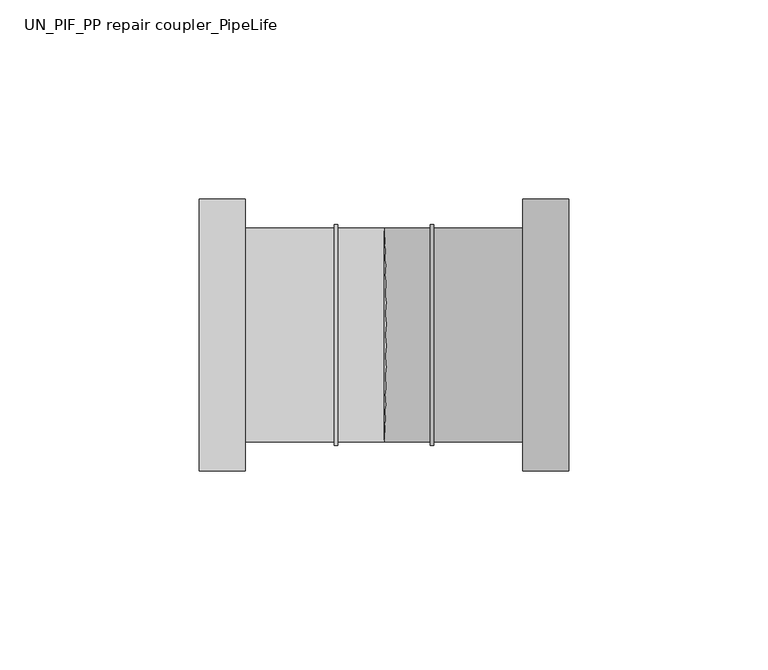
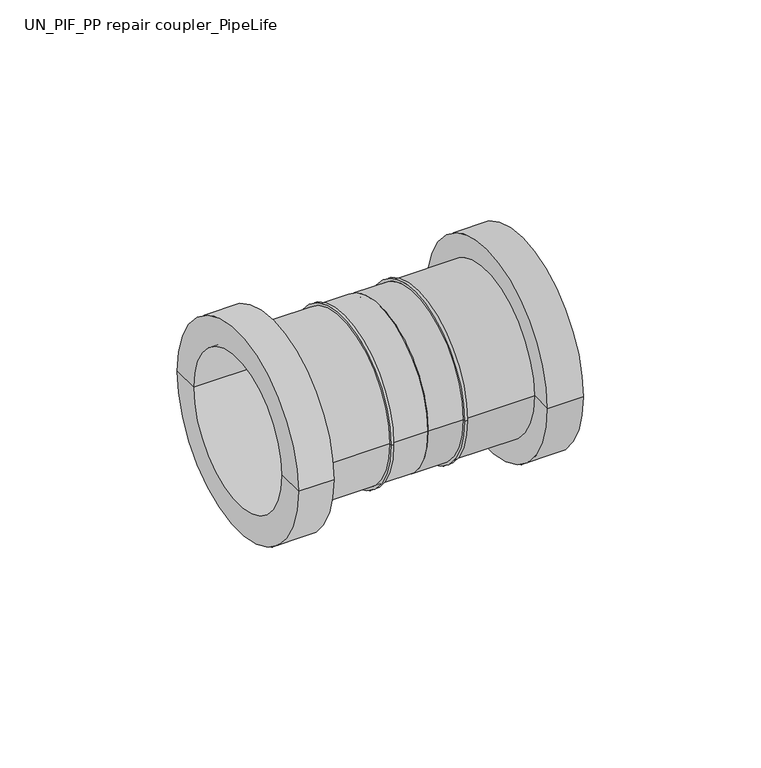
"""IFC4 building model written with IfcOpenShell, lengths in millimetres: pipe fitting geometry, UN_PIF_PP repair coupler_PipeLife : White, var. DN/OD (max. ø50)."""

from ifc_helpers import new_model, si_unit, frame, origin, place, context, project, spatial, polyline, circle_curve, source, transform, mapped, element, save
from ifc_brep_helpers import plane_surface, cylinder_surface, revolved_surface, advanced_brep


def un_pif_pp_repair_coupler_pipelife_4e795297(model_context):
    return source(origin(), model_context, "Body", "AdvancedBrep", [
        advanced_brep(
        [(1.85, 25.0, 0.0), (1.85, -25.0, 0.0), (0.0, -26.85, 0.0), (0.0, 26.85, 0.0), (-46.4, 34.15, 0.0), (-46.4, -34.15, 0.0), (-46.4, -25.0, 0.0), (-46.4, 25.0, 0.0), (-34.8, 34.15, 0.0), (-34.8, -34.15, 0.0), (-34.8, 26.85, 0.0), (-34.8, -26.85, 0.0), (-12.45, 26.85, 0.0), (-12.45, -26.85, 0.0), (-12.45, 27.7, 0.0), (-12.45, -27.7, 0.0), (-11.6, 27.7, 0.0), (-11.6, -27.7, 0.0), (-11.6, 26.85, 0.0), (-11.6, -26.85, 0.0)],
        [
            (0, 1, circle_curve(frame((1.85, 0.0, 0.0), z_axis=(-1.0, 0.0, 0.0), x_axis=(0.0, -1.0, 0.0)), 25.0)),
            (1, 2),
            (2, 3, circle_curve(frame((0.0, 0.0, 0.0), z_axis=(1.0, 0.0, 0.0), x_axis=(0.0, -1.0, 0.0)), 26.85)),
            (3, 0),
            (1, 0, circle_curve(frame((1.85, 0.0, 0.0), z_axis=(-1.0, 0.0, 0.0), x_axis=(0.0, -1.0, 0.0)), 25.0)),
            (3, 2, circle_curve(frame((0.0, 0.0, 0.0), z_axis=(1.0, 0.0, 0.0), x_axis=(0.0, -1.0, 0.0)), 26.85)),
            (4, 5, circle_curve(frame((-46.4, 0.0, 0.0), z_axis=(-1.0, 0.0, 0.0), x_axis=(0.0, -1.0, 0.0)), 34.15)),
            (5, 6),
            (6, 7, circle_curve(frame((-46.4, 0.0, 0.0), z_axis=(1.0, 0.0, 0.0), x_axis=(0.0, -1.0, 0.0)), 25.0)),
            (7, 4),
            (5, 4, circle_curve(frame((-46.4, 0.0, 0.0), z_axis=(-1.0, 0.0, 0.0), x_axis=(0.0, -1.0, 0.0)), 34.15)),
            (7, 6, circle_curve(frame((-46.4, 0.0, 0.0), z_axis=(1.0, 0.0, 0.0), x_axis=(0.0, -1.0, 0.0)), 25.0)),
            (8, 9, circle_curve(frame((-34.8, 0.0, 0.0), z_axis=(-1.0, 0.0, 0.0), x_axis=(0.0, -1.0, 0.0)), 34.15)),
            (9, 5),
            (4, 8),
            (9, 8, circle_curve(frame((-34.8, 0.0, 0.0), z_axis=(-1.0, 0.0, 0.0), x_axis=(0.0, -1.0, 0.0)), 34.15)),
            (10, 11, circle_curve(frame((-34.8, 0.0, 0.0), z_axis=(-1.0, 0.0, 0.0), x_axis=(0.0, -1.0, 0.0)), 26.85)),
            (11, 9),
            (8, 10),
            (11, 10, circle_curve(frame((-34.8, 0.0, 0.0), z_axis=(-1.0, 0.0, 0.0), x_axis=(0.0, -1.0, 0.0)), 26.85)),
            (12, 13, circle_curve(frame((-12.45, 0.0, 0.0), z_axis=(-1.0, 0.0, 0.0), x_axis=(0.0, -1.0, 0.0)), 26.85)),
            (13, 11),
            (10, 12),
            (13, 12, circle_curve(frame((-12.45, 0.0, 0.0), z_axis=(-1.0, 0.0, 0.0), x_axis=(0.0, -1.0, 0.0)), 26.85)),
            (14, 15, circle_curve(frame((-12.45, 0.0, 0.0), z_axis=(-1.0, 0.0, 0.0), x_axis=(0.0, -1.0, 0.0)), 27.7)),
            (15, 13),
            (12, 14),
            (15, 14, circle_curve(frame((-12.45, 0.0, 0.0), z_axis=(-1.0, 0.0, 0.0), x_axis=(0.0, -1.0, 0.0)), 27.7)),
            (16, 17, circle_curve(frame((-11.6, 0.0, 0.0), z_axis=(-1.0, 0.0, 0.0), x_axis=(0.0, -1.0, 0.0)), 27.7)),
            (17, 15),
            (14, 16),
            (17, 16, circle_curve(frame((-11.6, 0.0, 0.0), z_axis=(-1.0, 0.0, 0.0), x_axis=(0.0, -1.0, 0.0)), 27.7)),
            (18, 19, circle_curve(frame((-11.6, 0.0, 0.0), z_axis=(-1.0, 0.0, 0.0), x_axis=(0.0, -1.0, 0.0)), 26.85)),
            (19, 17),
            (16, 18),
            (19, 18, circle_curve(frame((-11.6, 0.0, 0.0), z_axis=(-1.0, 0.0, 0.0), x_axis=(0.0, -1.0, 0.0)), 26.85)),
            (2, 19),
            (18, 3),
            (6, 1),
            (0, 7),
        ],
        [
            revolved_surface(polyline([(0.0, -26.85, 0.0), (1.85, -25.0, 0.0)]), (-46.4, 0.0, 0.0), (1.0, 0.0, 0.0)),
            plane_surface(frame((-46.4, 0.0, 0.0), z_axis=(-1.0, 0.0, 0.0), x_axis=(0.0, -1.0, 0.0))),
            cylinder_surface(frame((-46.4, 0.0, 0.0), z_axis=(1.0, 0.0, 0.0), x_axis=(0.0, -1.0, 0.0)), 34.15),
            plane_surface(frame((-34.8, 0.0, 0.0), z_axis=(1.0, 0.0, 0.0), x_axis=(0.0, -1.0, 0.0))),
            cylinder_surface(frame((-46.4, 0.0, 0.0), z_axis=(1.0, 0.0, 0.0), x_axis=(0.0, -1.0, 0.0)), 26.85),
            plane_surface(frame((-12.45, 0.0, 0.0), z_axis=(-1.0, 0.0, 0.0), x_axis=(0.0, -1.0, 0.0))),
            cylinder_surface(frame((-46.4, 0.0, 0.0), z_axis=(1.0, 0.0, 0.0), x_axis=(0.0, -1.0, 0.0)), 27.7),
            plane_surface(frame((-11.6, 0.0, 0.0), z_axis=(1.0, 0.0, 0.0), x_axis=(0.0, -1.0, 0.0))),
            revolved_surface(polyline([(1.8500000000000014, -25.0, 0.0), (-46.4, -25.0, 0.0)]), (-46.4, 0.0, 0.0), (1.0, 0.0, 0.0)),
        ],
        [
            (0, [[1, 2, 3, 4]]),
            (0, [[5, -4, 6, -2]]),
            (1, [[7, 8, 9, 10]]),
            (1, [[11, -10, 12, -8]]),
            (2, [[13, 14, -7, 15]]),
            (2, [[16, -15, -11, -14]]),
            (3, [[17, 18, -13, 19]]),
            (3, [[20, -19, -16, -18]]),
            (4, [[21, 22, -17, 23]]),
            (4, [[24, -23, -20, -22]]),
            (5, [[25, 26, -21, 27]]),
            (5, [[28, -27, -24, -26]]),
            (6, [[29, 30, -25, 31]]),
            (6, [[32, -31, -28, -30]]),
            (7, [[33, 34, -29, 35]]),
            (7, [[36, -35, -32, -34]]),
            (4, [[-3, 37, -33, 38]]),
            (4, [[-6, -38, -36, -37]]),
            (8, [[-9, 39, -1, 40]]),
            (8, [[-12, -40, -5, -39]]),
        ],
    ),
        advanced_brep(
        [(-1.85, -25.0, 0.0), (-1.85, 25.0, 0.0), (0.0, 26.85, 0.0), (0.0, -26.85, 0.0), (46.4, -34.15, 0.0), (46.4, 34.15, 0.0), (46.4, 25.0, 0.0), (46.4, -25.0, 0.0), (34.8, -34.15, 0.0), (34.8, 34.15, 0.0), (34.8, -26.85, 0.0), (34.8, 26.85, 0.0), (12.45, -26.85, 0.0), (12.45, 26.85, 0.0), (12.45, -27.7, 0.0), (12.45, 27.7, 0.0), (11.6, -27.7, 0.0), (11.6, 27.7, 0.0), (11.6, -26.85, 0.0), (11.6, 26.85, 0.0)],
        [
            (0, 1, circle_curve(frame((-1.85, 0.0, 0.0), z_axis=(1.0, 0.0, 0.0), x_axis=(0.0, 1.0, 0.0)), 25.0)),
            (1, 2),
            (2, 3, circle_curve(frame((0.0, 0.0, 0.0), z_axis=(-1.0, 0.0, 0.0), x_axis=(0.0, 1.0, 0.0)), 26.85)),
            (3, 0),
            (1, 0, circle_curve(frame((-1.85, 0.0, 0.0), z_axis=(1.0, 0.0, 0.0), x_axis=(0.0, 1.0, 0.0)), 25.0)),
            (3, 2, circle_curve(frame((0.0, 0.0, 0.0), z_axis=(-1.0, 0.0, 0.0), x_axis=(0.0, 1.0, 0.0)), 26.85)),
            (4, 5, circle_curve(frame((46.4, 0.0, 0.0), z_axis=(1.0, 0.0, 0.0), x_axis=(0.0, 1.0, 0.0)), 34.15)),
            (5, 6),
            (6, 7, circle_curve(frame((46.4, 0.0, 0.0), z_axis=(-1.0, 0.0, 0.0), x_axis=(0.0, 1.0, 0.0)), 25.0)),
            (7, 4),
            (5, 4, circle_curve(frame((46.4, 0.0, 0.0), z_axis=(1.0, 0.0, 0.0), x_axis=(0.0, 1.0, 0.0)), 34.15)),
            (7, 6, circle_curve(frame((46.4, 0.0, 0.0), z_axis=(-1.0, 0.0, 0.0), x_axis=(0.0, 1.0, 0.0)), 25.0)),
            (8, 9, circle_curve(frame((34.8, 0.0, 0.0), z_axis=(1.0, 0.0, 0.0), x_axis=(0.0, 1.0, 0.0)), 34.15)),
            (9, 5),
            (4, 8),
            (9, 8, circle_curve(frame((34.8, 0.0, 0.0), z_axis=(1.0, 0.0, 0.0), x_axis=(0.0, 1.0, 0.0)), 34.15)),
            (10, 11, circle_curve(frame((34.8, 0.0, 0.0), z_axis=(1.0, 0.0, 0.0), x_axis=(0.0, 1.0, 0.0)), 26.85)),
            (11, 9),
            (8, 10),
            (11, 10, circle_curve(frame((34.8, 0.0, 0.0), z_axis=(1.0, 0.0, 0.0), x_axis=(0.0, 1.0, 0.0)), 26.85)),
            (12, 13, circle_curve(frame((12.45, 0.0, 0.0), z_axis=(1.0, 0.0, 0.0), x_axis=(0.0, 1.0, 0.0)), 26.85)),
            (13, 11),
            (10, 12),
            (13, 12, circle_curve(frame((12.45, 0.0, 0.0), z_axis=(1.0, 0.0, 0.0), x_axis=(0.0, 1.0, 0.0)), 26.85)),
            (14, 15, circle_curve(frame((12.45, 0.0, 0.0), z_axis=(1.0, 0.0, 0.0), x_axis=(0.0, 1.0, 0.0)), 27.7)),
            (15, 13),
            (12, 14),
            (15, 14, circle_curve(frame((12.45, 0.0, 0.0), z_axis=(1.0, 0.0, 0.0), x_axis=(0.0, 1.0, 0.0)), 27.7)),
            (16, 17, circle_curve(frame((11.6, 0.0, 0.0), z_axis=(1.0, 0.0, 0.0), x_axis=(0.0, 1.0, 0.0)), 27.7)),
            (17, 15),
            (14, 16),
            (17, 16, circle_curve(frame((11.6, 0.0, 0.0), z_axis=(1.0, 0.0, 0.0), x_axis=(0.0, 1.0, 0.0)), 27.7)),
            (18, 19, circle_curve(frame((11.6, 0.0, 0.0), z_axis=(1.0, 0.0, 0.0), x_axis=(0.0, 1.0, 0.0)), 26.85)),
            (19, 17),
            (16, 18),
            (19, 18, circle_curve(frame((11.6, 0.0, 0.0), z_axis=(1.0, 0.0, 0.0), x_axis=(0.0, 1.0, 0.0)), 26.85)),
            (2, 19),
            (18, 3),
            (6, 1),
            (0, 7),
        ],
        [
            revolved_surface(polyline([(0.0, 26.85, 0.0), (-1.85, 25.0, 0.0)]), (46.4, 0.0, 0.0), (-1.0, 0.0, 0.0)),
            plane_surface(frame((46.4, 0.0, 0.0), z_axis=(1.0, 0.0, 0.0), x_axis=(0.0, 1.0, 0.0))),
            cylinder_surface(frame((46.4, 0.0, 0.0), z_axis=(-1.0, 0.0, 0.0), x_axis=(0.0, 1.0, 0.0)), 34.15),
            plane_surface(frame((34.8, 0.0, 0.0), z_axis=(-1.0, 0.0, 0.0), x_axis=(0.0, 1.0, 0.0))),
            cylinder_surface(frame((46.4, 0.0, 0.0), z_axis=(-1.0, 0.0, 0.0), x_axis=(0.0, 1.0, 0.0)), 26.85),
            plane_surface(frame((12.45, 0.0, 0.0), z_axis=(1.0, 0.0, 0.0), x_axis=(0.0, 1.0, 0.0))),
            cylinder_surface(frame((46.4, 0.0, 0.0), z_axis=(-1.0, 0.0, 0.0), x_axis=(0.0, 1.0, 0.0)), 27.7),
            plane_surface(frame((11.6, 0.0, 0.0), z_axis=(-1.0, 0.0, 0.0), x_axis=(0.0, 1.0, 0.0))),
            revolved_surface(polyline([(-1.8500000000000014, 25.0, 0.0), (46.4, 25.0, 0.0)]), (46.4, 0.0, 0.0), (-1.0, 0.0, 0.0)),
        ],
        [
            (0, [[1, 2, 3, 4]]),
            (0, [[5, -4, 6, -2]]),
            (1, [[7, 8, 9, 10]]),
            (1, [[11, -10, 12, -8]]),
            (2, [[13, 14, -7, 15]]),
            (2, [[16, -15, -11, -14]]),
            (3, [[17, 18, -13, 19]]),
            (3, [[20, -19, -16, -18]]),
            (4, [[21, 22, -17, 23]]),
            (4, [[24, -23, -20, -22]]),
            (5, [[25, 26, -21, 27]]),
            (5, [[28, -27, -24, -26]]),
            (6, [[29, 30, -25, 31]]),
            (6, [[32, -31, -28, -30]]),
            (7, [[33, 34, -29, 35]]),
            (7, [[36, -35, -32, -34]]),
            (4, [[-3, 37, -33, 38]]),
            (4, [[-6, -38, -36, -37]]),
            (8, [[-9, 39, -1, 40]]),
            (8, [[-12, -40, -5, -39]]),
        ],
    ),
    ])


if __name__ == "__main__":
    model = new_model("IFC4")
    model_context = context("Model", 3, world=origin())
    ifc_project = project(units=[si_unit("LENGTHUNIT", "METRE", prefix="MILLI")], contexts=[model_context])
    site = spatial("IfcSite", under=ifc_project)
    building = spatial("IfcBuilding", under=site)
    placement = place(None, origin())
    un_pif_pp_repair_coupler_pipelife_shape = un_pif_pp_repair_coupler_pipelife_4e795297(model_context)
    element("IfcPipeFitting", 1, ObjectType="UN_PIF_PP repair coupler_PipeLife : White, var. DN/OD (max. ø50)", at=placement, inside=building, context=model_context, shape_type="MappedRepresentation", body=[
        mapped(un_pif_pp_repair_coupler_pipelife_shape, transform((0.0, 0.0, 0.0), x_axis=(1.0, 0.0, 0.0), y_axis=(0.0, 1.0, 0.0), z_axis=(0.0, 0.0, 1.0))),
    ])
    save(model, "model.ifc")
